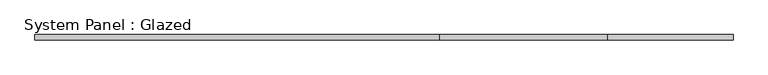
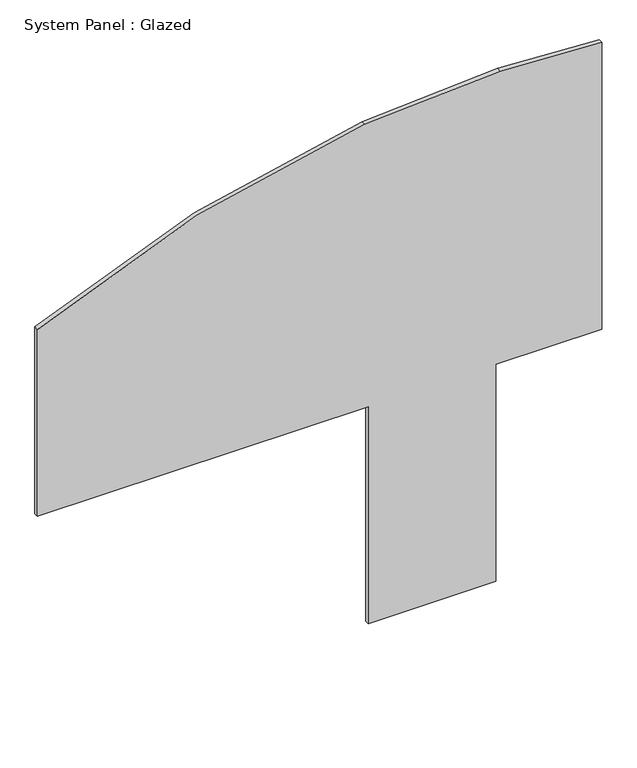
"""IFC4 building model written with IfcOpenShell, lengths in millimetres: plate geometry, System Panel : Glazed."""

from ifc_helpers import new_model, si_unit, point, frame, frame_2d, origin, place, context, project, spatial, polyline, circle_curve, trimmed, segment, composite_curve, outline, extrude, source, transform, mapped, element, save


def system_panel_glazed_9a7de711(model_context):
    return source(origin(), model_context, "Body", "SweptSolid", [
        extrude(outline(composite_curve([segment(polyline([(0.0, 275.0), (0.0, 1000.0), (1300.0, 1000.0), (1300.0, 1600.0), (3021.7999748, 1600.0)]), True, "CONTINUOUS"), segment(trimmed(circle_curve(frame_2d((-2726.3064524, 1025.0)), 5776.7943099), [point((3021.7999748, 1600.0))], [point((3050.4878575, 1025.0))], False, "CARTESIAN"), True, "CONTINUOUS"), segment(trimmed(circle_curve(frame_2d((-2726.3064524, 1025.0)), 5776.7943099), [point((3050.4878575, 1025.0))], [point((2999.162197, 256.650312))], False, "CARTESIAN"), True, "CONTINUOUS"), segment(trimmed(circle_curve(frame_2d((-2726.3064524, 1025.0)), 5776.7943099), [point((2999.162197, 256.650312))], [point((2419.6363668, -1600.0))], False, "CARTESIAN"), True, "CONTINUOUS"), segment(polyline([(2419.6363668, -1600.0), (1300.0, -1600.0), (1300.0, 275.0), (0.0, 275.0)]), True, "CONTINUOUS")], self_intersect=False)), frame((0.0, 24.5, 0.0), z_axis=(0.0, 1.0, 0.0), x_axis=(0.0, 0.0, 1.0)), (0.0, 0.0, 1.0), 25.0),
    ])


if __name__ == "__main__":
    model = new_model("IFC4")
    model_context = context("Model", 3, world=origin())
    ifc_project = project(units=[si_unit("LENGTHUNIT", "METRE", prefix="MILLI")], contexts=[model_context])
    site = spatial("IfcSite", under=ifc_project)
    building = spatial("IfcBuilding", under=site)
    placement = place(None, origin())
    system_panel_glazed_shape = system_panel_glazed_9a7de711(model_context)
    element("IfcPlate", 1, ObjectType="System Panel : Glazed", at=placement, inside=building, context=model_context, shape_type="MappedRepresentation", body=[
        mapped(system_panel_glazed_shape, transform((0.0, 0.0, 0.0), x_axis=(1.0, 0.0, 0.0), y_axis=(0.0, 1.0, 0.0), z_axis=(0.0, 0.0, 1.0))),
    ])
    save(model, "model.ifc")
